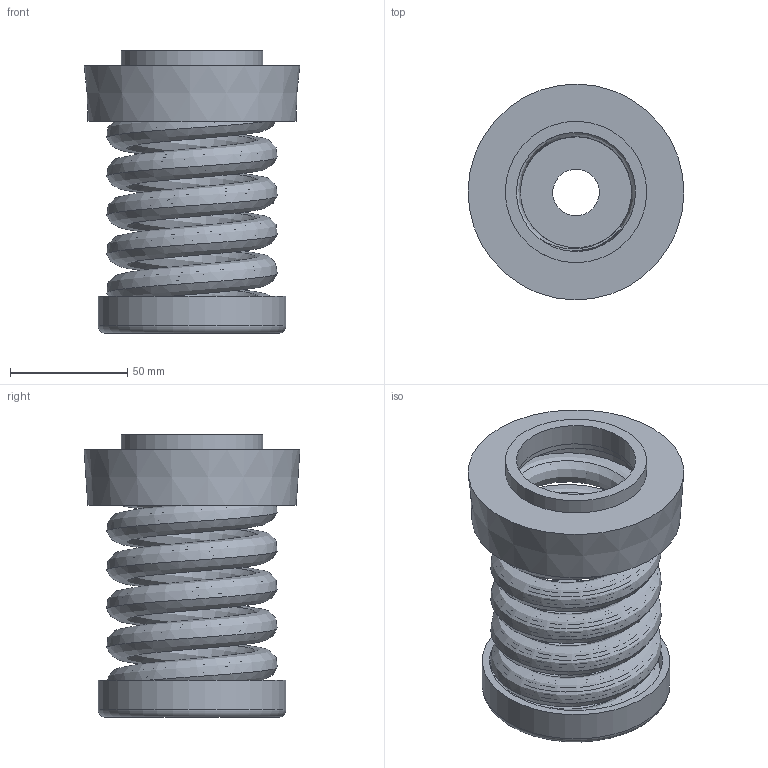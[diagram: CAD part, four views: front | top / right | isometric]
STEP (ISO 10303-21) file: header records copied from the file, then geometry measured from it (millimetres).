
FILE_DESCRIPTION(/* description */ (''),/* implementation_level */ '2;1');
FILE_NAME(/* name */ '\\Mleuckthor2\cad-proe_solids\WEBSITE FILES 05.22.13\STEP\IM\IM-1-2935.stp',/* time_stamp */ '2016-03-05T14:01:08-05:00',/* author */ ('rramoutar'),/* organization */ ('Mason Industries Inc.'),/* preprocessor_version */ 'ST-DEVELOPER v15.6',/* originating_system */ 'Autodesk Inventor 2015',/* authorisation */ '');
FILE_SCHEMA (('CONFIG_CONTROL_DESIGN'));
Length unit declared in the file: inch
Products named in the file (1): IM-C-2935 HANGER
Bounding box: 92.06 x 92.06 x 120.61 mm (x, y, z)
Volume: 133690.3 mm3; surface area: 135423.6 mm2
Topology: 4 solids, 4 shells, 56 faces, 125 edges, 83 vertices
Faces by surface type: bspline 22, plane 18, cylinder 13, torus 2, cone 1
Full cylindrical faces by diameter (mm): 19.844 x1, 50.8 x1, 53.181 x1, 57.15 x2, 60.325 x1, 72.231 x1, 73.819 x1, 80.082 x1, 82.55 x2
Entity records: 11281 total; most frequent: CARTESIAN_POINT 10095, ORIENTED_EDGE 220, DIRECTION 164, EDGE_CURVE 110, EDGE_LOOP 84, VERTEX_POINT 82, AXIS2_PLACEMENT_3D 67, STYLED_ITEM 60
